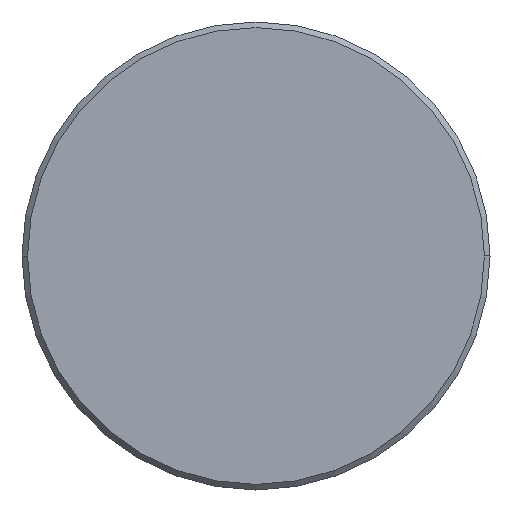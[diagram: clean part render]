
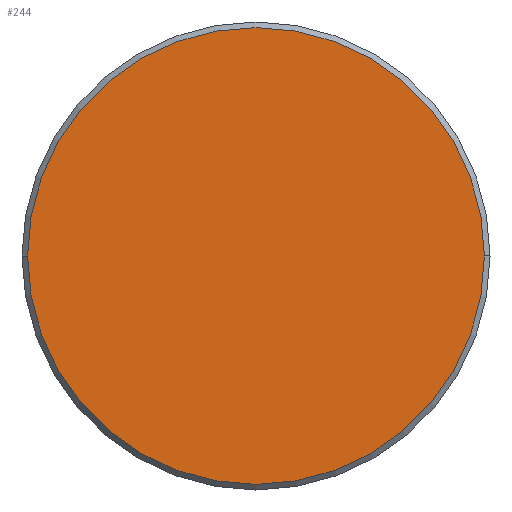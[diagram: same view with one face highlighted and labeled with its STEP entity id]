
A CAD part, left-side view. The second image highlights one B-rep face of the part: STEP entity #244.
In plain terms, the highlighted planar face has unit normal (-1, 0, 0).
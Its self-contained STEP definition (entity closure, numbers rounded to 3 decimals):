
#7 = PLANE ( 'NONE',  #344 ) ;
#8 = FACE_OUTER_BOUND ( 'NONE', #98, .T. ) ;
#18 = AXIS2_PLACEMENT_3D ( 'NONE', #276, #114, #301 ) ;
#82 = CARTESIAN_POINT ( 'NONE',  ( -75., 12.2, 0. ) ) ;
#98 = EDGE_LOOP ( 'NONE', ( #325, #254 ) ) ;
#100 = VERTEX_POINT ( 'NONE', #82 ) ;
#101 = AXIS2_PLACEMENT_3D ( 'NONE', #315, #156, #338 ) ;
#114 = DIRECTION ( 'NONE',  ( 1., 0., 0. ) ) ;
#120 = CARTESIAN_POINT ( 'NONE',  ( -75., 0., 0. ) ) ;
#144 = EDGE_CURVE ( 'NONE', #237, #100, #285, .T. ) ;
#149 = DIRECTION ( 'NONE',  ( 0., -1., 0. ) ) ;
#156 = DIRECTION ( 'NONE',  ( 1., 0., 0. ) ) ;
#176 = CARTESIAN_POINT ( 'NONE',  ( -75., -12.2, 0. ) ) ;
#196 = CIRCLE ( 'NONE', #101, 12.2 ) ;
#237 = VERTEX_POINT ( 'NONE', #176 ) ;
#244 = ADVANCED_FACE ( 'NONE', ( #8 ), #7, .T. ) ;
#254 = ORIENTED_EDGE ( 'NONE', *, *, #144, .F. ) ;
#276 = CARTESIAN_POINT ( 'NONE',  ( -75., 0., 0. ) ) ;
#285 = CIRCLE ( 'NONE', #18, 12.2 ) ;
#301 = DIRECTION ( 'NONE',  ( 0., 1., 0. ) ) ;
#305 = EDGE_CURVE ( 'NONE', #100, #237, #196, .T. ) ;
#310 = DIRECTION ( 'NONE',  ( -1., 0., 0. ) ) ;
#315 = CARTESIAN_POINT ( 'NONE',  ( -75., 0., 0. ) ) ;
#325 = ORIENTED_EDGE ( 'NONE', *, *, #305, .F. ) ;
#338 = DIRECTION ( 'NONE',  ( 0., 1., 0. ) ) ;
#344 = AXIS2_PLACEMENT_3D ( 'NONE', #120, #310, #149 ) ;
